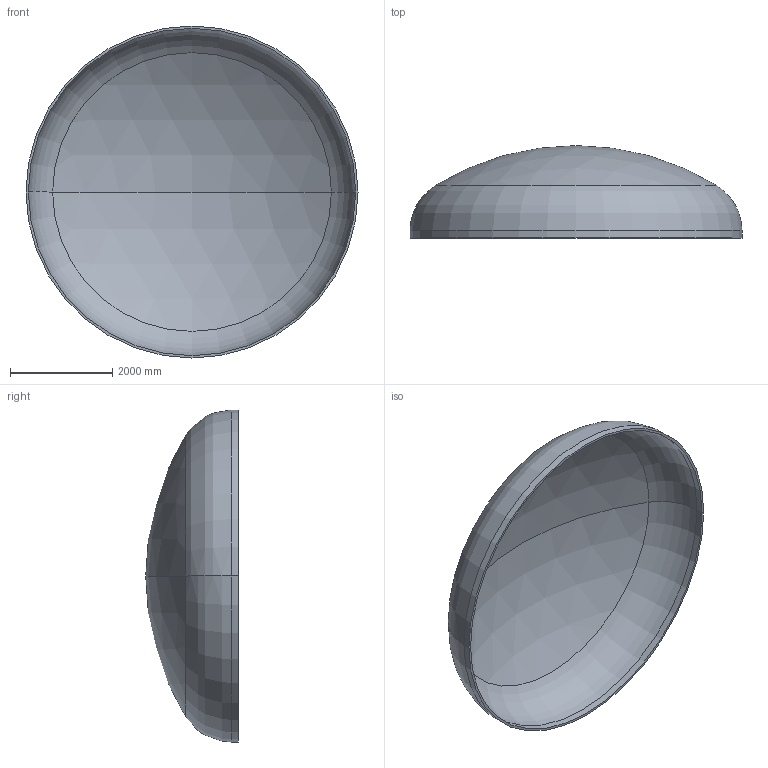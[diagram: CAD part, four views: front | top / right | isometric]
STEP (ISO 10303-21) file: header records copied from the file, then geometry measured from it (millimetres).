
FILE_DESCRIPTION (( 'STEP AP203' ), '1' );
FILE_NAME ('DIN 28013 Korbbogenform_-_Boden DIN 28013 - 6500 x 140 - I - s=46.step', '2016-07-04T10:42:10', ( '' ), ( '' ), 'SwSTEP 2.0', 'SolidWorks 2013', '' );
FILE_SCHEMA (( 'CONFIG_CONTROL_DESIGN' ));
Length unit declared in the file: millimetre
Products named in the file (1): DIN 28013 Korbbogenform_-_Boden DIN 28013 - 6500 x 140 - I - s=46
Bounding box: 6500 x 1810.75 x 6500 mm (x, y, z)
Volume: 2224575060.5 mm3; surface area: 97657737.9 mm2
Topology: 1 solids, 1 shells, 13 faces, 24 edges, 14 vertices
Faces by surface type: torus 4, cylinder 4, sphere 4, plane 1
Entity records: 407 total; most frequent: DIRECTION 72, CARTESIAN_POINT 52, ORIENTED_EDGE 48, AXIS2_PLACEMENT_3D 34, EDGE_CURVE 24, CIRCLE 20, VERTEX_POINT 14, EDGE_LOOP 14
